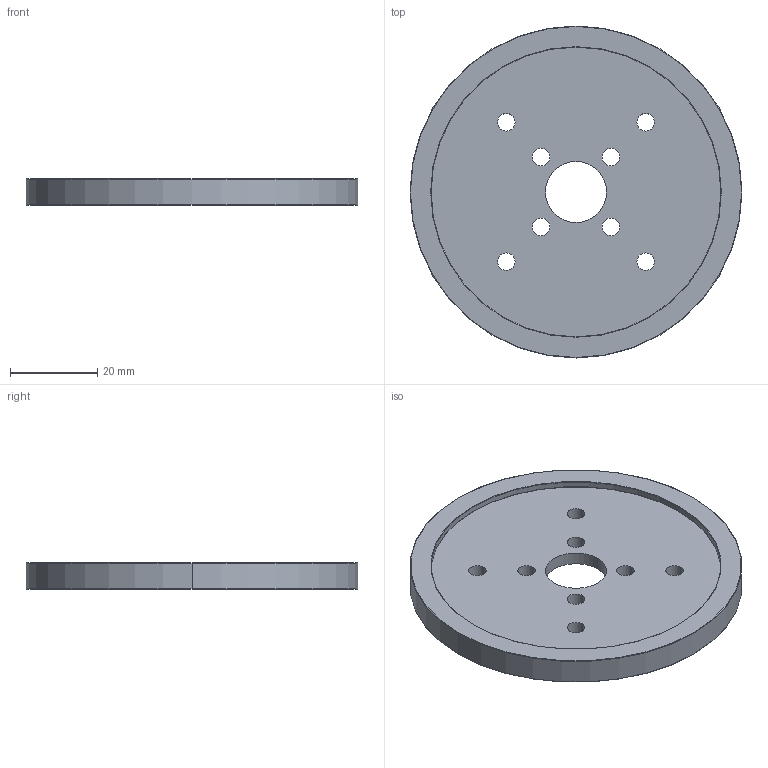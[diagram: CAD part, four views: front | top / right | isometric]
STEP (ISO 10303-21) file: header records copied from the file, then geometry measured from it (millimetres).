
FILE_DESCRIPTION (( 'STEP AP203' ), '1' );
FILE_NAME ('3603-0014-0303 Red Acrylic Wheel.STEP', '2022-12-19T22:11:33', ( '' ), ( '' ), 'SwSTEP 2.0', 'SolidWorks 2016', '' );
FILE_SCHEMA (( 'CONFIG_CONTROL_DESIGN' ));
Length unit declared in the file: millimetre
Products named in the file (1): 3603-0014-0303 Red Acrylic Wheel
Bounding box: 76.2 x 76.2 x 6 mm (x, y, z)
Volume: 16168.7 mm3; surface area: 15466.9 mm2
Topology: 2 solids, 2 shells, 46 faces, 108 edges, 68 vertices
Faces by surface type: cylinder 28, torus 12, plane 6
Entity records: 1471 total; most frequent: DIRECTION 282, CARTESIAN_POINT 223, ORIENTED_EDGE 216, AXIS2_PLACEMENT_3D 127, EDGE_CURVE 108, CIRCLE 80, EDGE_LOOP 68, VERTEX_POINT 68
